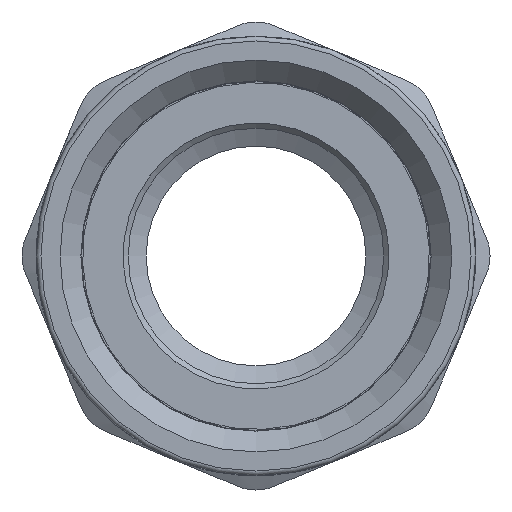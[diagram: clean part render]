
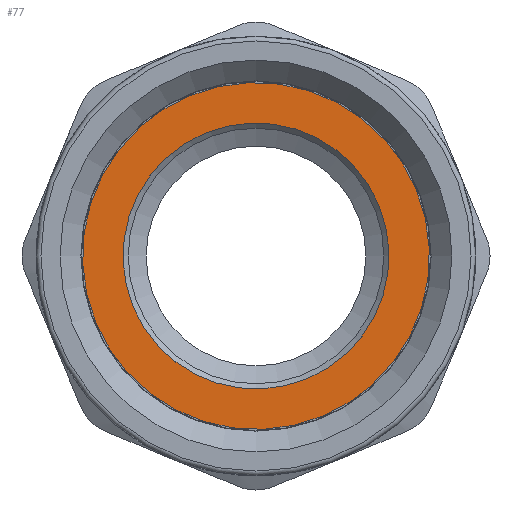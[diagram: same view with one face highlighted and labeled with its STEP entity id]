
A CAD part, left-side view. The second image highlights one B-rep face of the part: STEP entity #77.
In plain terms, the highlighted planar face has unit normal (-1, 0, 0).
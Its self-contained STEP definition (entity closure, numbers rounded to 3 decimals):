
#77=ADVANCED_FACE('',(#277,#279),#281,.F.);
#277=FACE_BOUND('',#278,.T.);
#278=EDGE_LOOP('',(#986));
#279=FACE_BOUND('',#280,.T.);
#280=EDGE_LOOP('',(#987));
#281=PLANE('',#282);
#282=AXIS2_PLACEMENT_3D('',#283,#284,#285);
#283=CARTESIAN_POINT('',(-38.2,0.,0.));
#284=DIRECTION('',(1.,0.,0.));
#285=DIRECTION('',(0.,0.887,0.463));
#986=ORIENTED_EDGE('',*,*,#1394,.F.);
#987=ORIENTED_EDGE('',*,*,#1396,.T.);
#1394=EDGE_CURVE('',#1614,#1614,#1615,.T.);
#1396=EDGE_CURVE('',#1618,#1618,#1619,.T.);
#1614=VERTEX_POINT('',#2236);
#1615=CIRCLE('',#2237,15.);
#1618=VERTEX_POINT('',#2246);
#1619=CIRCLE('',#2247,11.5);
#2236=CARTESIAN_POINT('',(-38.2,13.299,6.938));
#2237=AXIS2_PLACEMENT_3D('',#2238,#2239,#2240);
#2238=CARTESIAN_POINT('',(-38.2,0.,0.));
#2239=DIRECTION('',(1.,0.,0.));
#2240=DIRECTION('',(0.,0.887,0.463));
#2246=CARTESIAN_POINT('',(-38.2,10.196,5.319));
#2247=AXIS2_PLACEMENT_3D('',#2248,#2249,#2250);
#2248=CARTESIAN_POINT('',(-38.2,0.,0.));
#2249=DIRECTION('',(1.,0.,0.));
#2250=DIRECTION('',(0.,0.887,0.463));
